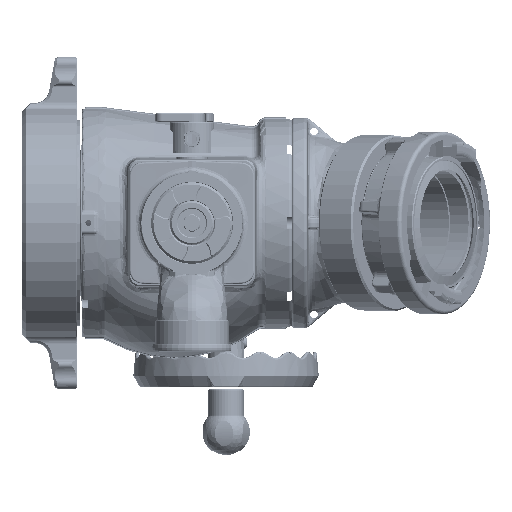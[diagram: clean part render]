
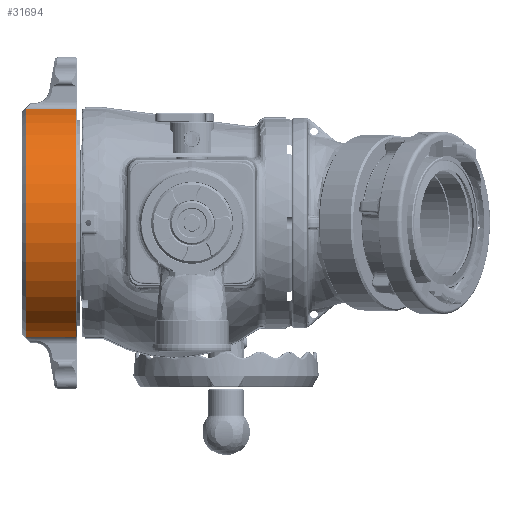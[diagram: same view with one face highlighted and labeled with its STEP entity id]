
A CAD part, front view. The second image highlights one B-rep face of the part: STEP entity #31694.
In plain terms, the highlighted cylindrical face has radius 98.425 mm (diameter 196.85 mm), a partial arc.
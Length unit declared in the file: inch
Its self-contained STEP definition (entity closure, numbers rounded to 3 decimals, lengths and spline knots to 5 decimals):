
#875 = CARTESIAN_POINT ( 'NONE',  ( -4.983, 0., 0. ) ) ;
#3128 = CARTESIAN_POINT ( 'NONE',  ( -5.158, -0.68106, 3.81468 ) ) ;
#4929 = CARTESIAN_POINT ( 'NONE',  ( -3.3075, -0.68106, 3.81468 ) ) ;
#6715 = DIRECTION ( 'NONE',  ( 0., 0., -1. ) ) ;
#8357 = AXIS2_PLACEMENT_3D ( 'NONE', #115113, #265491, #6715 ) ;
#8893 = CARTESIAN_POINT ( 'NONE',  ( -4.983, -0.68106, 3.81468 ) ) ;
#21230 = VECTOR ( 'NONE', #228196, 39.37008 ) ;
#22652 = EDGE_CURVE ( 'NONE', #80388, #139036, #95414, .T. ) ;
#22727 = DIRECTION ( 'NONE',  ( -1., 0., 0. ) ) ;
#26899 = CARTESIAN_POINT ( 'NONE',  ( -4.983, -0.68106, -3.81468 ) ) ;
#31694 = ADVANCED_FACE ( 'NONE', ( #215856 ), #154673, .T. ) ;
#33643 = CARTESIAN_POINT ( 'NONE',  ( -3.3075, -0.68106, -3.81468 ) ) ;
#40470 = DIRECTION ( 'NONE',  ( -1., 0., 0. ) ) ;
#64813 = EDGE_CURVE ( 'NONE', #89741, #139036, #141402, .T. ) ;
#79213 = LINE ( 'NONE', #140733, #21230 ) ;
#80388 = VERTEX_POINT ( 'NONE', #8893 ) ;
#89741 = VERTEX_POINT ( 'NONE', #33643 ) ;
#91263 = ORIENTED_EDGE ( 'NONE', *, *, #277070, .F. ) ;
#92492 = DIRECTION ( 'NONE',  ( 1., 0., 0. ) ) ;
#95414 = LINE ( 'NONE', #3128, #190742 ) ;
#105981 = DIRECTION ( 'NONE',  ( 0., 0., 1. ) ) ;
#111055 = VERTEX_POINT ( 'NONE', #26899 ) ;
#115113 = CARTESIAN_POINT ( 'NONE',  ( -5.158, 0., 0. ) ) ;
#121062 = ORIENTED_EDGE ( 'NONE', *, *, #22652, .F. ) ;
#122783 = EDGE_CURVE ( 'NONE', #111055, #89741, #79213, .T. ) ;
#139036 = VERTEX_POINT ( 'NONE', #4929 ) ;
#140733 = CARTESIAN_POINT ( 'NONE',  ( -5.158, -0.68106, -3.81468 ) ) ;
#141402 = CIRCLE ( 'NONE', #183962, 3.875 ) ;
#149827 = CIRCLE ( 'NONE', #208529, 3.875 ) ;
#153155 = ORIENTED_EDGE ( 'NONE', *, *, #64813, .T. ) ;
#154673 = CYLINDRICAL_SURFACE ( 'NONE', #8357, 3.875 ) ;
#183962 = AXIS2_PLACEMENT_3D ( 'NONE', #280087, #40470, #105981 ) ;
#190682 = ORIENTED_EDGE ( 'NONE', *, *, #122783, .T. ) ;
#190742 = VECTOR ( 'NONE', #92492, 39.37008 ) ;
#196834 = DIRECTION ( 'NONE',  ( 0., 0., -1. ) ) ;
#201314 = EDGE_LOOP ( 'NONE', ( #190682, #153155, #121062, #91263 ) ) ;
#208529 = AXIS2_PLACEMENT_3D ( 'NONE', #875, #22727, #196834 ) ;
#215856 = FACE_OUTER_BOUND ( 'NONE', #201314, .T. ) ;
#228196 = DIRECTION ( 'NONE',  ( 1., 0., 0. ) ) ;
#265491 = DIRECTION ( 'NONE',  ( 1., 0., 0. ) ) ;
#277070 = EDGE_CURVE ( 'NONE', #111055, #80388, #149827, .T. ) ;
#280087 = CARTESIAN_POINT ( 'NONE',  ( -3.3075, 0., 0. ) ) ;
